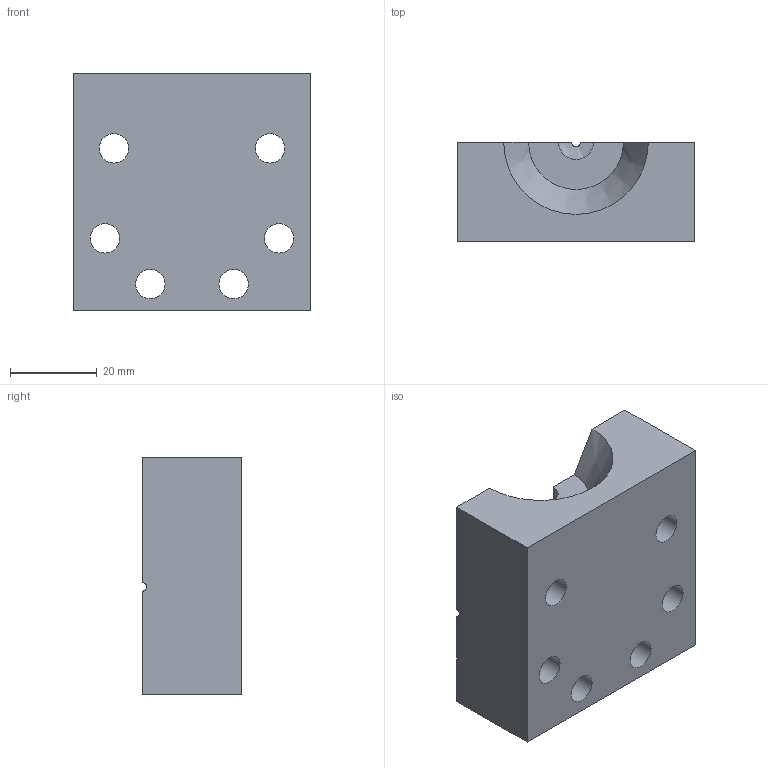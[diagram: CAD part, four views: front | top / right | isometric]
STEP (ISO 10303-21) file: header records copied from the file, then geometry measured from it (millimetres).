
FILE_DESCRIPTION(/* description */ ('STEP AP242','CAx-IF Rec.Pracs.---Representation and Presentation of Product Manufacturing Information (PMI)---4.0---2014-10-13','CAx-IF Rec.Pracs.---3D Tessellated Geometry---0.4---2014-09-14','2;1'),/* implementation_level */ '2;1');
FILE_NAME(/* name */ '633563c078ffe86d146b9128',/* time_stamp */ '2022-09-29T09:22:09+00:00',/* author */ (''),/* organization */ (''),/* preprocessor_version */ 'ST-DEVELOPER v18.102',/* originating_system */ ' ',/* authorisation */ ' ');
FILE_SCHEMA (('AP242_MANAGED_MODEL_BASED_3D_ENGINEERING_MIM_LF { 1 0 10303 442 1 1 4 }'));
Length unit declared in the file: metre
Products named in the file (1): Part 1
Bounding box: 55 x 23 x 55 mm (x, y, z)
Volume: 54254.9 mm3; surface area: 14311.6 mm2
Topology: 1 solids, 1 shells, 22 faces, 66 edges, 46 vertices
Faces by surface type: plane 10, cylinder 10, cone 1, sphere 1
Full cylindrical faces by diameter (mm): 6.8 x6
Entity records: 726 total; most frequent: DIRECTION 126, CARTESIAN_POINT 117, ORIENTED_EDGE 108, EDGE_CURVE 54, AXIS2_PLACEMENT_3D 49, VERTEX_POINT 40, EDGE_LOOP 40, FACE_BOUND 40
